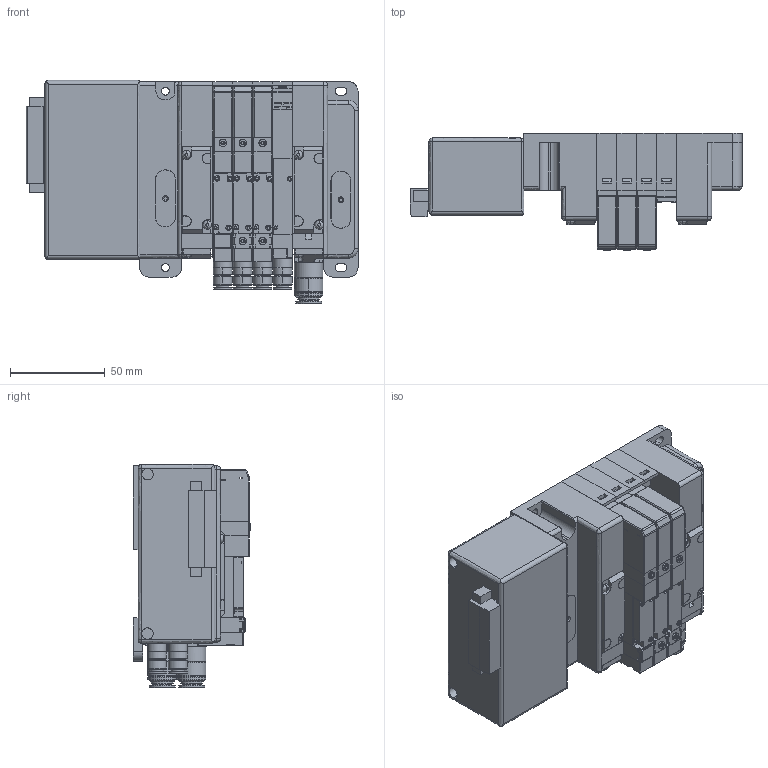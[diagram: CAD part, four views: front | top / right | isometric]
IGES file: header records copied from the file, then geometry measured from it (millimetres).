
Start section: ------------------------------------------------------------------------
Global section: file name: D:\ICADMX\tmp\trans3d_spg\CVICAD02.2536.F10M4XSJ-JR-B1_14956.igs; native system: spGate; preprocessor: ver12.6.6; author: Unknown; organization: Unknown; date: 200901.145719; units: millimetre
Bounding box: 175 x 62.1 x 117.7 mm (x, y, z)
Volume: 648042.9 mm3; surface area: 159326.4 mm2
Topology: 39 solids, 39 shells, 3321 faces, 8852 edges, 6170 vertices
Faces by surface type: bspline 3321
